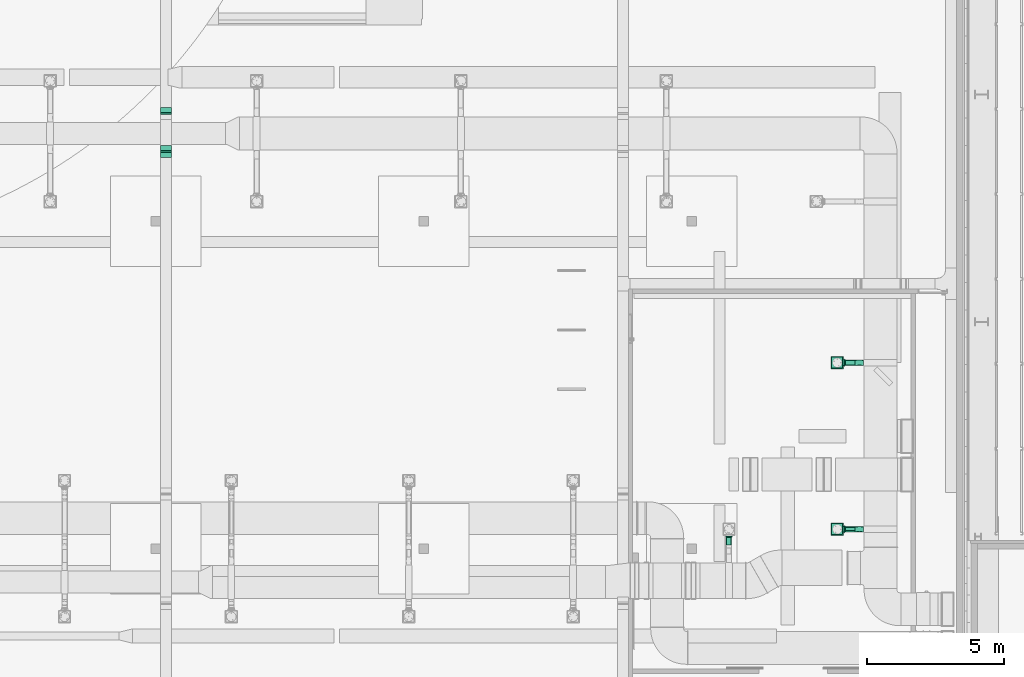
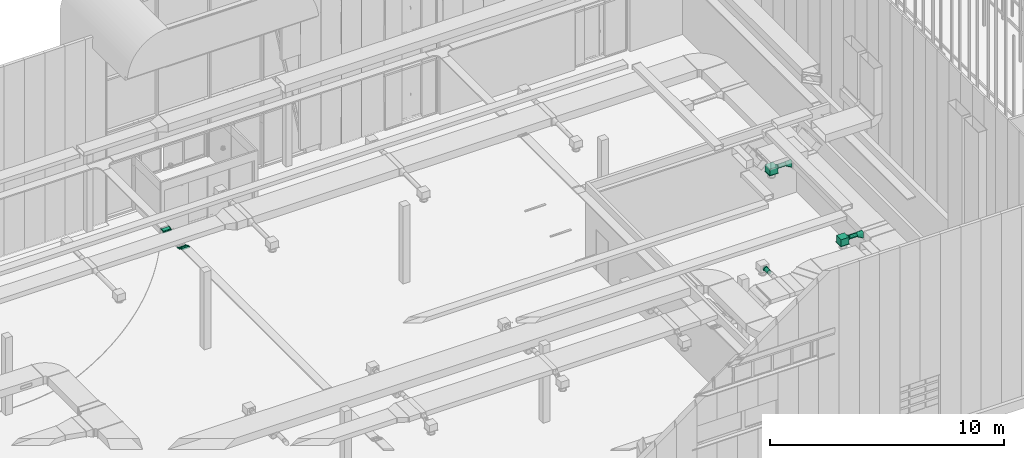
# One storey, part 281 of 302: 8 flow fittings, 5 flow segments, 2 flow terminals.
"""IFC2X3 building model written with IfcOpenShell, lengths in metres."""

from ifc_helpers import new_model, entity, si_unit, converted_unit, derived_unit, direction, frame, frame_2d, origin, origin_2d_with_axis, place, context, subcontext, project, spatial, rectangle, circle, extrude, faceted_brep, source, transform, mapped, material, material_list, type_object, type_shapes, element, save


model = new_model("IFC2X3")

# Units and contexts
model_context = context("Model", 3, precision=1e-05, world=origin(), true_north=direction((6.12303176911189e-17, 1.0)))
body_context = subcontext(model_context, "Body", "Model", "MODEL_VIEW")
ifc_project = project(units=[si_unit("LENGTHUNIT", "METRE"), si_unit("AREAUNIT", "SQUARE_METRE"), si_unit("VOLUMEUNIT", "CUBIC_METRE"), converted_unit("PLANEANGLEUNIT", "DEGREE", entity("IfcRatioMeasure", 0.0174532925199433), si_unit("PLANEANGLEUNIT", "RADIAN"), dimensions=[0, 0, 0, 0, 0, 0, 0]), si_unit("MASSUNIT", "GRAM", prefix="KILO"), derived_unit("MASSDENSITYUNIT", [(si_unit("MASSUNIT", "GRAM", prefix="KILO"), 1), (si_unit("LENGTHUNIT", "METRE"), -3)]), derived_unit("MOMENTOFINERTIAUNIT", [(si_unit("LENGTHUNIT", "METRE"), 4)]), si_unit("TIMEUNIT", "SECOND"), si_unit("FREQUENCYUNIT", "HERTZ"), si_unit("THERMODYNAMICTEMPERATUREUNIT", "DEGREE_CELSIUS"), derived_unit("THERMALTRANSMITTANCEUNIT", [(si_unit("MASSUNIT", "GRAM", prefix="KILO"), 1), (si_unit("THERMODYNAMICTEMPERATUREUNIT", "KELVIN"), -1), (si_unit("TIMEUNIT", "SECOND"), -3)]), derived_unit("VOLUMETRICFLOWRATEUNIT", [(si_unit("LENGTHUNIT", "METRE"), 3), (si_unit("TIMEUNIT", "SECOND"), -1)]), si_unit("ELECTRICCURRENTUNIT", "AMPERE"), si_unit("ELECTRICVOLTAGEUNIT", "VOLT"), si_unit("POWERUNIT", "WATT"), si_unit("FORCEUNIT", "NEWTON", prefix="KILO"), si_unit("ILLUMINANCEUNIT", "LUX"), si_unit("LUMINOUSFLUXUNIT", "LUMEN"), si_unit("LUMINOUSINTENSITYUNIT", "CANDELA"), derived_unit("USERDEFINED", [(si_unit("MASSUNIT", "GRAM", prefix="KILO"), -1), (si_unit("LENGTHUNIT", "METRE"), -2), (si_unit("TIMEUNIT", "SECOND"), 3), (si_unit("LUMINOUSFLUXUNIT", "LUMEN"), 1)]), derived_unit("LINEARVELOCITYUNIT", [(si_unit("LENGTHUNIT", "METRE"), 1), (si_unit("TIMEUNIT", "SECOND"), -1)]), si_unit("PRESSUREUNIT", "PASCAL"), derived_unit("USERDEFINED", [(si_unit("LENGTHUNIT", "METRE"), -2), (si_unit("MASSUNIT", "GRAM", prefix="KILO"), 1), (si_unit("TIMEUNIT", "SECOND"), -2)]), derived_unit("LINEARFORCEUNIT", [(si_unit("MASSUNIT", "GRAM", prefix="KILO"), 1), (si_unit("LENGTHUNIT", "METRE"), 1), (si_unit("TIMEUNIT", "SECOND"), -2), (si_unit("LENGTHUNIT", "METRE"), -1)]), derived_unit("PLANARFORCEUNIT", [(si_unit("MASSUNIT", "GRAM", prefix="KILO"), 1), (si_unit("LENGTHUNIT", "METRE"), 1), (si_unit("TIMEUNIT", "SECOND"), -2), (si_unit("LENGTHUNIT", "METRE"), -2)])], contexts=[model_context])

# Site, building, storey
site_placement = place(None, origin())
site = spatial("IfcSite", under=ifc_project, at=site_placement, Name="Default", CompositionType="ELEMENT")
building_placement = place(site_placement, origin())
building = spatial("IfcBuilding", under=site, at=building_placement, CompositionType="ELEMENT")
storey_placement = place(building_placement, frame((0.0, 0.0, -1.3)))
storey = spatial("IfcBuildingStorey", under=building, at=storey_placement, Name="00_EG", CompositionType="ELEMENT", Elevation=-1.3)

# Flow segments
cable_carrier_segment_type = type_object("IfcCableCarrierSegmentType", Name="Kabeltrasse mit Formteilen:Channel Cable Tray", PredefinedType="CABLETRAYSEGMENT")
flow_segment_1_placement = place(storey_placement, origin())
element("IfcFlowSegment", 1, at=flow_segment_1_placement, inside=storey, type_object=cable_carrier_segment_type, Name="Kabeltrasse mit Formteilen:Channel Cable Tray", ObjectType="Kabeltrasse mit Formteilen:Channel Cable Tray", context=body_context, shape_type="SweptSolid", body=[
    extrude(rectangle(XDim=0.0600000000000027, YDim=0.0578549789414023, at=frame_2d((-1.23165366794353e-16, -2.41126563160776e-16), x_axis=(0.0, 1.0))), frame((-236.972611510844, 39.3352572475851, 4.79000000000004), z_axis=(1.0, 0.0, 0.0), x_axis=(0.0, 0.891006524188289, 0.453990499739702)), (0.0, 0.0, 1.0), 0.399999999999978),
])
flow_segment_2_placement = place(storey_placement, origin())
element("IfcFlowSegment", 2, at=flow_segment_2_placement, inside=storey, type_object=cable_carrier_segment_type, Name="Kabeltrasse mit Formteilen:Channel Cable Tray", ObjectType="Kabeltrasse mit Formteilen:Channel Cable Tray", context=body_context, shape_type="SweptSolid", body=[
    extrude(rectangle(XDim=0.0600000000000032, YDim=0.0578549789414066, at=frame_2d((-1.80584713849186e-15, -1.22471477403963e-15), x_axis=(0.0, 1.0))), frame((-236.972611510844, 37.9444956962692, 4.79000000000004), z_axis=(1.0, 0.0, 0.0), x_axis=(0.0, -0.891006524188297, 0.453990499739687)), (0.0, 0.0, 1.0), 0.399999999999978),
])

# Flow fittings
ifc_material = material(Name="<Unnamed>")
cable_carrier_fitting_type_1 = type_object("IfcCableCarrierFittingType", Name="Kabeltrasse - Bogen außen vertikal:Standard", PredefinedType="NOTDEFINED", material=ifc_material)
shared_shape_1 = source(origin(), body_context, "Body", "Brep", [
    faceted_brep([(-0.103233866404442, -0.0300000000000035, 0.199999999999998), (-0.103233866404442, 0.0299999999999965, 0.199999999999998), (-0.103233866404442, 0.0299999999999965, -0.200000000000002), (-0.103233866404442, -0.0300000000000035, -0.200000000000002), (-0.103233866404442, -0.0300000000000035, -0.197460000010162), (-0.103233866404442, 0.0274600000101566, -0.197460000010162), (-0.103233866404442, 0.0274600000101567, 0.197460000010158), (-0.103233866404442, -0.0300000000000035, 0.197460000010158), (0.105601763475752, 0.0201369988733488, 0.199999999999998), (0.105601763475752, 0.0201369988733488, 0.197460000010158), (0.0795154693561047, 0.071334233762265, 0.197460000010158), (0.0795154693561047, 0.071334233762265, -0.197460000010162), (0.105601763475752, 0.0201369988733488, -0.197460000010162), (0.105601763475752, 0.0201369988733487, -0.200000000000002), (0.0783623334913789, 0.0735973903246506, -0.200000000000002), (0.0783623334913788, 0.0735973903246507, 0.199999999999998), (-0.0487892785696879, -0.0300000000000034, 0.199999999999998), (0.0570912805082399, -0.00458032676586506, 0.199999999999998), (0.036179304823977, 0.052104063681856, 0.199999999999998), (-0.0558907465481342, 0.0299999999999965, 0.199999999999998), (-0.0558907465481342, 0.0299999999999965, -0.200000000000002), (0.036179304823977, 0.052104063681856, -0.200000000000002), (0.0570912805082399, -0.00458032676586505, -0.200000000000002), (-0.0487892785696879, -0.0300000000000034, -0.200000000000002), (-0.0487892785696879, -0.0300000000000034, -0.197460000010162), (0.0570912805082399, -0.00458032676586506, -0.197460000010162), (0.0370645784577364, 0.0497044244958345, -0.197460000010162), (-0.0555901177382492, 0.0274600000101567, -0.197460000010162), (-0.0555901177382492, 0.0274600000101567, 0.197460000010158), (0.0370645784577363, 0.0497044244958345, 0.197460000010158), (0.0570912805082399, -0.00458032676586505, 0.197460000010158), (-0.0487892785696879, -0.0300000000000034, 0.197460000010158)], [[[0, 1, 2, 3, 4, 5, 6, 7]], [[8, 9, 10, 11, 12, 13, 14, 15]], [[1, 0, 16, 17, 8, 15, 18, 19]], [[2, 1, 19, 20]], [[3, 2, 20, 21, 14, 13, 22, 23]], [[4, 3, 23, 24]], [[5, 4, 24, 25, 12, 11, 26, 27]], [[6, 5, 27, 28]], [[7, 6, 28, 29, 10, 9, 30, 31]], [[0, 7, 31, 16]], [[20, 19, 18, 21]], [[24, 23, 22, 25]], [[28, 27, 26, 29]], [[16, 31, 30, 17]], [[21, 18, 15, 14]], [[25, 22, 13, 12]], [[29, 26, 11, 10]], [[17, 30, 9, 8]]]),
])
type_shapes(cable_carrier_fitting_type_1, [shared_shape_1])
flow_fitting_1_placement = place(storey_placement, frame((-236.772611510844, 37.8267390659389, 4.85000000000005), z_axis=(1.0, 0.0, 0.0), x_axis=(0.0, -0.891006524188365, 0.453990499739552)))
element("IfcFlowFitting", 3, at=flow_fitting_1_placement, inside=storey, type_object=cable_carrier_fitting_type_1, material=ifc_material, Name="Kabeltrasse - Bogen außen vertikal:Standard", ObjectType="Kabeltrasse - Bogen außen vertikal:Standard", context=body_context, shape_type="MappedRepresentation", body=[
    mapped(shared_shape_1, transform((0.0, 0.0, 0.0), scale=1.0)),
])
cable_carrier_fitting_type_2 = type_object("IfcCableCarrierFittingType", Name="Kabeltrasse - Bogen innen vertikal:Standard", PredefinedType="NOTDEFINED", material=ifc_material)
shared_shape_2 = source(origin(), body_context, "Body", "Brep", [
    faceted_brep([(-0.103233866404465, 0.0299999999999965, 0.199999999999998), (-0.103233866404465, 0.0299999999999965, 0.197460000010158), (-0.103233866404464, -0.0274600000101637, 0.197460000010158), (-0.103233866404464, -0.0274600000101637, -0.197460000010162), (-0.103233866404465, 0.0299999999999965, -0.197460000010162), (-0.103233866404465, 0.0299999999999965, -0.200000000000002), (-0.103233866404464, -0.0300000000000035, -0.200000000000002), (-0.103233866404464, -0.0300000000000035, 0.199999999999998), (0.0783623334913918, 0.0735973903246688, 0.199999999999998), (0.10560176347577, 0.0201369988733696, 0.199999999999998), (0.10560176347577, 0.0201369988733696, -0.200000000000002), (0.0783623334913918, 0.0735973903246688, -0.200000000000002), (0.0783623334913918, 0.0735973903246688, -0.197460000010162), (0.104448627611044, 0.0224001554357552, -0.197460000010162), (0.104448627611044, 0.0224001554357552, 0.197460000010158), (0.0783623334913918, 0.0735973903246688, 0.197460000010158), (-0.0558907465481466, 0.0299999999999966, 0.199999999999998), (-0.0558907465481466, 0.0299999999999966, 0.197460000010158), (0.036179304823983, 0.0521040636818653, 0.197460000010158), (0.0562060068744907, -0.00218068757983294, 0.197460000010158), (-0.0490899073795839, -0.0274600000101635, 0.197460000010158), (-0.0490899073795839, -0.0274600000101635, -0.197460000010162), (0.0562060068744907, -0.00218068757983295, -0.197460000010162), (0.036179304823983, 0.0521040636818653, -0.197460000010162), (-0.0558907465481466, 0.0299999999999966, -0.197460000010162), (-0.0558907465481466, 0.0299999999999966, -0.200000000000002), (0.036179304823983, 0.0521040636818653, -0.200000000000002), (0.0570912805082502, -0.00458032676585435, -0.200000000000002), (-0.0487892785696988, -0.0300000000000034, -0.200000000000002), (-0.0487892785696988, -0.0300000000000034, 0.199999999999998), (0.0570912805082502, -0.00458032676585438, 0.199999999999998), (0.036179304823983, 0.0521040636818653, 0.199999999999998)], [[[0, 1, 2, 3, 4, 5, 6, 7]], [[8, 9, 10, 11, 12, 13, 14, 15]], [[1, 0, 16, 17]], [[2, 1, 17, 18, 15, 14, 19, 20]], [[3, 2, 20, 21]], [[4, 3, 21, 22, 13, 12, 23, 24]], [[5, 4, 24, 25]], [[6, 5, 25, 26, 11, 10, 27, 28]], [[7, 6, 28, 29]], [[0, 7, 29, 30, 9, 8, 31, 16]], [[17, 16, 31, 18]], [[21, 20, 19, 22]], [[25, 24, 23, 26]], [[29, 28, 27, 30]], [[18, 31, 8, 15]], [[22, 19, 14, 13]], [[26, 23, 12, 11]], [[30, 27, 10, 9]]]),
])
type_shapes(cable_carrier_fitting_type_2, [shared_shape_2])
flow_fitting_2_placement = place(storey_placement, frame((-236.772611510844, 38.0622523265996, 4.73000000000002), z_axis=(1.0, 0.0, 0.0), x_axis=(0.0, 0.89100652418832, -0.453990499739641)))
element("IfcFlowFitting", 4, at=flow_fitting_2_placement, inside=storey, type_object=cable_carrier_fitting_type_2, material=ifc_material, Name="Kabeltrasse - Bogen innen vertikal:Standard", ObjectType="Kabeltrasse - Bogen innen vertikal:Standard", context=body_context, shape_type="MappedRepresentation", body=[
    mapped(shared_shape_2, transform((0.0, 0.0, 0.0), scale=1.0)),
])
cable_carrier_fitting_type_3 = type_object("IfcCableCarrierFittingType", Name="Kabeltrasse - Bogen außen vertikal:Standard", PredefinedType="NOTDEFINED", material=ifc_material)
shared_shape_3 = source(origin(), body_context, "Body", "Brep", [
    faceted_brep([(-0.103233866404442, 0.0300000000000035, 0.199999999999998), (-0.103233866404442, 0.0300000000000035, 0.197460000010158), (-0.103233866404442, -0.0274600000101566, 0.197460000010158), (-0.103233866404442, -0.0274600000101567, -0.197460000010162), (-0.103233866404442, 0.0300000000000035, -0.197460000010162), (-0.103233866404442, 0.0300000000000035, -0.200000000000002), (-0.103233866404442, -0.0299999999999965, -0.200000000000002), (-0.103233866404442, -0.0299999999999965, 0.199999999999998), (0.105601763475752, -0.0201369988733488, 0.199999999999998), (0.0783623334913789, -0.0735973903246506, 0.199999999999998), (0.0783623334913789, -0.0735973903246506, -0.200000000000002), (0.105601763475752, -0.0201369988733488, -0.200000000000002), (0.105601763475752, -0.0201369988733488, -0.197460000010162), (0.0795154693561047, -0.071334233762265, -0.197460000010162), (0.0795154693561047, -0.071334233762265, 0.197460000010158), (0.105601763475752, -0.0201369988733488, 0.197460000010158), (-0.0558907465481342, -0.0299999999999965, 0.199999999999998), (0.036179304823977, -0.052104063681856, 0.199999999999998), (0.0570912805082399, 0.00458032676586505, 0.199999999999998), (-0.0487892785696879, 0.0300000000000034, 0.199999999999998), (-0.0558907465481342, -0.0299999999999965, -0.200000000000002), (-0.0487892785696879, 0.0300000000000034, -0.200000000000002), (0.0570912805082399, 0.00458032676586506, -0.200000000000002), (0.036179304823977, -0.052104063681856, -0.200000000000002), (-0.0487892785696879, 0.0300000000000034, -0.197460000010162), (-0.0555901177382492, -0.0274600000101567, -0.197460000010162), (0.0370645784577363, -0.0497044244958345, -0.197460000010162), (0.0570912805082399, 0.00458032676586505, -0.197460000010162), (-0.0555901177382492, -0.0274600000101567, 0.197460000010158), (-0.0487892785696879, 0.0300000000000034, 0.197460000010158), (0.0570912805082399, 0.00458032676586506, 0.197460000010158), (0.0370645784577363, -0.0497044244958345, 0.197460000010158)], [[[0, 1, 2, 3, 4, 5, 6, 7]], [[8, 9, 10, 11, 12, 13, 14, 15]], [[7, 16, 17, 9, 8, 18, 19, 0]], [[6, 20, 16, 7]], [[5, 21, 22, 11, 10, 23, 20, 6]], [[4, 24, 21, 5]], [[3, 25, 26, 13, 12, 27, 24, 4]], [[2, 28, 25, 3]], [[1, 29, 30, 15, 14, 31, 28, 2]], [[0, 19, 29, 1]], [[20, 23, 17, 16]], [[24, 27, 22, 21]], [[28, 31, 26, 25]], [[19, 18, 30, 29]], [[23, 10, 9, 17]], [[27, 12, 11, 22]], [[31, 14, 13, 26]], [[18, 8, 15, 30]]]),
])
type_shapes(cable_carrier_fitting_type_3, [shared_shape_3])
flow_fitting_3_placement = place(storey_placement, frame((-236.772611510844, 39.4530138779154, 4.85000000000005), z_axis=(1.0, 0.0, 0.0), x_axis=(0.0, 0.891006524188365, 0.453990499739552)))
element("IfcFlowFitting", 5, at=flow_fitting_3_placement, inside=storey, type_object=cable_carrier_fitting_type_3, material=ifc_material, Name="Kabeltrasse - Bogen außen vertikal:Standard", ObjectType="Kabeltrasse - Bogen außen vertikal:Standard", context=body_context, shape_type="MappedRepresentation", body=[
    mapped(shared_shape_3, transform((0.0, 0.0, 0.0), scale=1.0)),
])

# Flow segments
duct_segment_type = type_object("IfcDuctSegmentType", Name="Rund:STR_Segment_RND_GS_EA", PredefinedType="NOTDEFINED")
flow_segment_3_placement = place(storey_placement, origin())
element("IfcFlowSegment", 6, at=flow_segment_3_placement, inside=storey, type_object=duct_segment_type, Name="Rund:STR_Segment_RND_GS_EA", ObjectType="Rund:STR_Segment_RND_GS_EA", context=body_context, shape_type="SweptSolid", body=[
    extrude(circle(Radius=0.1, at=origin_2d_with_axis()), frame((-211.963736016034, 30.2373330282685, 4.985), z_axis=(1.0, 0.0, 0.0), x_axis=(0.0, 1.0, 0.0)), (0.0, 0.0, 1.0), 0.359195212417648),
])
flow_segment_4_placement = place(storey_placement, origin())
element("IfcFlowSegment", 7, at=flow_segment_4_placement, inside=storey, type_object=duct_segment_type, Name="Rund:STR_Segment_RND_GS_EA", ObjectType="Rund:STR_Segment_RND_GS_EA", context=body_context, shape_type="SweptSolid", body=[
    extrude(circle(Radius=0.1, at=origin_2d_with_axis()), frame((-211.963736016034, 24.1552444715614, 4.985), z_axis=(1.0, 0.0, 0.0), x_axis=(0.0, 1.0, 0.0)), (0.0, 0.0, 1.0), 0.359195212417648),
])
flow_segment_5_placement = place(storey_placement, origin())
element("IfcFlowSegment", 8, at=flow_segment_5_placement, inside=storey, type_object=duct_segment_type, Name="Rund:STR_Segment_RND_GS_EA", ObjectType="Rund:STR_Segment_RND_GS_EA", context=body_context, shape_type="SweptSolid", body=[
    extrude(circle(Radius=0.1, at=origin_2d_with_axis()), frame((-216.214864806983, 23.5775453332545, 4.985), z_axis=(0.0, 1.0, 0.0), x_axis=(-1.0, 0.0, 0.0)), (0.0, 0.0, 1.0), 0.278863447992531),
])

# Flow fittings
duct_fitting_type_1 = type_object("IfcDuctFittingType", Name="STR_RND_Transition:STR_Transition_RND_GS_EA", PredefinedType="NOTDEFINED", material=ifc_material)
shared_shape_4 = source(origin(), body_context, "Body", "Brep", [
    faceted_brep([(0.0500000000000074, -0.073473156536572, -0.1011271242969), (0.0500000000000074, -0.0386271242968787, -0.118882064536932), (0.0500000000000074, 0.0, -0.12500000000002), (0.0500000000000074, 0.0386271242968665, -0.11888206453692), (0.0500000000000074, 0.073473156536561, -0.101127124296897), (0.0500000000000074, 0.101127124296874, -0.0734731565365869), (0.0500000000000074, 0.1188820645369, -0.038627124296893), (0.0500000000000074, 0.124999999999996, 0.0), (0.0500000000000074, 0.118882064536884, 0.0386271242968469), (0.0500000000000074, 0.101127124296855, 0.073473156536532), (0.0500000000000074, 0.0734731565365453, 0.101127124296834), (0.0500000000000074, 0.0386271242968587, 0.118882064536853), (0.0500000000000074, 0.0, 0.12499999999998), (0.0500000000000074, -0.0386271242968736, 0.118882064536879), (0.0500000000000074, -0.0734731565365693, 0.101127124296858), (0.0500000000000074, -0.101127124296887, 0.0734731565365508), (0.0500000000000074, -0.118882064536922, 0.0386271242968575), (0.0500000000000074, -0.125000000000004, 0.0), (0.0500000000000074, -0.118882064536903, -0.0386271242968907), (0.0500000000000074, -0.101127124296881, -0.0734731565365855), (0.0, 0.0309016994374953, -0.0951056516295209), (0.0, 0.0, -0.100000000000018), (0.0, -0.0309016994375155, -0.0951056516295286), (0.0, -0.0587785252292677, -0.0809016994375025), (0.0, -0.0809016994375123, -0.0587785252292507), (0.0, -0.0951056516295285, -0.0309016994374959), (0.0, -0.100000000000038, 0.0), (0.0, -0.0951056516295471, 0.0309016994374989), (0.0, -0.0809016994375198, 0.0587785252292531), (0.0, -0.058778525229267, 0.0809016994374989), (0.0, -0.0309016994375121, 0.0951056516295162), (0.0, 0.0, 0.0999999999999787), (0.0, 0.0309016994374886, 0.0951056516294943), (0.0, 0.0587785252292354, 0.0809016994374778), (0.0, 0.0809016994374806, 0.0587785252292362), (0.0, 0.0951056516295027, 0.0309016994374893), (0.0, 0.0999999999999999, 0.0), (0.0, 0.0951056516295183, -0.0309016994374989), (0.0, 0.0809016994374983, -0.0587785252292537), (0.0, 0.0587785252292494, -0.0809016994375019)], [[[0, 1, 2, 3, 4, 5, 6, 7, 8, 9, 10, 11, 12, 13, 14, 15, 16, 17, 18, 19]], [[20, 21, 22, 23, 24, 25, 26, 27, 28, 29, 30, 31, 32, 33, 34, 35, 36, 37, 38, 39]], [[35, 34, 9, 8]], [[36, 35, 8, 7]], [[34, 33, 10, 9]], [[10, 33, 32, 11]], [[11, 32, 31, 12]], [[30, 29, 14, 13]], [[31, 30, 13, 12]], [[29, 28, 15, 14]], [[15, 28, 27, 16]], [[16, 27, 26, 17]], [[25, 24, 19, 18]], [[26, 25, 18, 17]], [[24, 23, 0, 19]], [[0, 23, 22, 1]], [[1, 22, 21, 2]], [[20, 39, 4, 3]], [[21, 20, 3, 2]], [[39, 38, 5, 4]], [[5, 38, 37, 6]], [[6, 37, 36, 7]]]),
])
type_shapes(duct_fitting_type_1, [shared_shape_4])
for number, where, z_axis, x_axis in (
    (9, (-211.963736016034, 30.2373330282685, 4.98500000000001), (0.0, 0.0, 1.0), (-1.0, 0.0, 0.0)),
    (10, (-216.214864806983, 23.856408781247, 4.985), (0.0, 0.0, 1.0), (0.0, 1.0, 0.0)),
    (11, (-211.963736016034, 24.1552444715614, 4.98500000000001), (0.0, 0.0, 1.0), (-1.0, 0.0, 0.0)),
):
    element("IfcFlowFitting", number, at=place(storey_placement, frame(where, z_axis=z_axis, x_axis=x_axis)), inside=storey, type_object=duct_fitting_type_1, material=ifc_material, Name="STR_RND_Transition:STR_Transition_RND_GS_EA", ObjectType="STR_RND_Transition:STR_Transition_RND_GS_EA", context=body_context, shape_type="MappedRepresentation", body=[
        mapped(shared_shape_4, transform((0.0, 0.0, 0.0), scale=1.0)),
    ])

# Flow terminals
ifc_material_list = material_list([ifc_material, ifc_material, ifc_material])
air_terminal_type = type_object("IfcAirTerminalType", Name="Drallauslass Zuluft seitlich:600 quadratisch", PredefinedType="NOTDEFINED", material=ifc_material_list)
shared_shape_5 = source(origin(), body_context, "Body", "SweptSolid", [
    extrude(rectangle(XDim=0.450000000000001, YDim=0.449999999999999, at=origin_2d_with_axis()), frame((0.0, 0.0, 2.692), z_axis=(0.0, 0.0, 1.0), x_axis=(0.0, 1.0, 0.0)), (0.0, 0.0, 1.0), 0.00800000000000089),
    extrude(circle(Radius=0.125, at=frame_2d((1.22275294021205e-18, -5.41433564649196e-16), x_axis=(1.0, 0.0))), frame((-0.25, 0.0, 2.89500000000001), z_axis=(1.0, 0.0, 0.0), x_axis=(0.0, -1.0, 0.0)), (0.0, 0.0, 1.0), 0.0499999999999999),
    extrude(rectangle(XDim=0.4, YDim=0.399999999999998, at=origin_2d_with_axis()), frame((0.0, 0.0, 2.7), z_axis=(0.0, 0.0, 1.0), x_axis=(0.0, 1.0, 0.0)), (0.0, 0.0, 1.0), 0.345000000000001),
])
type_shapes(air_terminal_type, [shared_shape_5])
for number, where, z_axis, x_axis, name in (
    (12, (-212.263736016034, 30.2373330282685, 2.09), (0.0, 0.0, 1.0), (-1.0, 0.0, 0.0), "Drallauslass Zuluft seitlich:600 quadratisch"),
    (13, (-212.263736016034, 24.1552444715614, 2.09), (0.0, 0.0, 1.0), (-1.0, 0.0, 0.0), "Drallauslass Zuluft seitlich:600 quadratisch"),
):
    element("IfcFlowTerminal", number, at=place(storey_placement, frame(where, z_axis=z_axis, x_axis=x_axis)), inside=storey, type_object=air_terminal_type, material=ifc_material, Name=name, ObjectType="Drallauslass Zuluft seitlich:600 quadratisch", context=body_context, shape_type="MappedRepresentation", body=[
        mapped(shared_shape_5, transform((0.0, 0.0, 0.0), scale=1.0)),
    ])

# Flow fittings
duct_fitting_type_2 = type_object("IfcDuctFittingType", Name="STR_OVL_Transition:STR_Transition_OVL_GS_EA", PredefinedType="NOTDEFINED", material=ifc_material)
shared_shape_6 = source(origin(), body_context, "Body", "Brep", [
    faceted_brep([(0.300000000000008, 0.0999999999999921, 0.0765874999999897), (0.300000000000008, 0.0966466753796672, 0.102058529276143), (0.300000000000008, 0.0868152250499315, 0.125793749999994), (0.300000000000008, 0.0711756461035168, 0.146175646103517), (0.300000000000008, 0.0507937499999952, 0.161815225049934), (0.300000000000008, 0.0270585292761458, 0.171646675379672), (0.300000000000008, 0.00158749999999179, 0.175), (0.300000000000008, -0.00158750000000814, 0.175), (0.300000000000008, -0.0270585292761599, 0.171646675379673), (0.300000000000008, -0.0507937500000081, 0.161815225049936), (0.300000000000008, -0.0711756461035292, 0.146175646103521), (0.300000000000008, -0.0868152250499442, 0.12579375), (0.300000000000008, -0.0966466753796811, 0.102058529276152), (0.300000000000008, -0.100000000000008, 0.0765874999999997), (0.300000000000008, -0.100000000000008, 0.0734124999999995), (0.300000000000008, -0.0966466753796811, 0.0479414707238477), (0.300000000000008, -0.0868152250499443, 0.0242062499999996), (0.300000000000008, -0.0711756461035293, 0.00382435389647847), (0.300000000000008, -0.0507937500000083, -0.0118152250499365), (0.300000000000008, -0.0270585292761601, -0.0216466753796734), (0.300000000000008, -0.00158750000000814, -0.0250000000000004), (0.300000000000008, 0.0015874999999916, -0.0250000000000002), (0.300000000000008, 0.0270585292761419, -0.0216466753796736), (0.300000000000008, 0.0507937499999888, -0.011815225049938), (0.300000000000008, 0.0711756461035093, 0.00382435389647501), (0.300000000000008, 0.0868152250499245, 0.0242062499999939), (0.300000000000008, 0.0966466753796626, 0.0479414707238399), (0.300000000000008, 0.0999999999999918, 0.0734124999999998), (0.0, 0.0507937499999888, -0.186815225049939), (0.0, 0.0270585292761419, -0.196646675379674), (0.0, 0.00158749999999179, -0.200000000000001), (0.0, -0.00158750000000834, -0.200000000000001), (0.0, -0.0270585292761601, -0.196646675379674), (0.0, -0.0507937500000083, -0.186815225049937), (0.0, -0.0711756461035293, -0.171175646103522), (0.0, -0.0868152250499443, -0.150793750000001), (0.0, -0.0966466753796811, -0.127058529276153), (0.0, -0.100000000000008, -0.101587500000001), (0.0, -0.100000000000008, 0.101587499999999), (0.0, -0.0966466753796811, 0.127058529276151), (0.0, -0.0868152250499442, 0.150793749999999), (0.0, -0.0711756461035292, 0.17117564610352), (0.0, -0.0507937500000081, 0.186815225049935), (0.0, -0.0270585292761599, 0.196646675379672), (0.0, -0.00158750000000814, 0.199999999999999), (0.0, 0.00158749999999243, 0.199999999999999), (0.0, 0.0270585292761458, 0.196646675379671), (0.0, 0.0507937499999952, 0.186815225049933), (0.0, 0.0711756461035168, 0.171175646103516), (0.0, 0.0868152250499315, 0.150793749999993), (0.0, 0.0966466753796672, 0.127058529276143), (0.0, 0.100000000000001, 0.101587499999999), (0.0, 0.0999999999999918, -0.101587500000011), (0.0, 0.0966466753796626, -0.127058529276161), (0.0, 0.0868152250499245, -0.150793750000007), (0.0, 0.0711756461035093, -0.171175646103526), (0.154247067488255, -0.0203412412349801, 0.185342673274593), (0.145752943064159, -0.0981965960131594, 0.10819516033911), (0.107489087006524, -0.00158750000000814, 0.191042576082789), (0.149999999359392, -0.0614972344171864, 0.167163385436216), (0.15000000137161, -0.0392483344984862, 0.180008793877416), (0.150000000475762, -0.0796633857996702, 0.148997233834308), (0.192510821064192, -0.100000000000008, 0.0855449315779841), (0.149999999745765, -0.0925087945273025, 0.126748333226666), (0.0998539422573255, -0.100000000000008, -0.0433393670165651), (0.15000000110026, -0.0925087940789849, -0.0517483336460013), (0.150000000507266, -0.061497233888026, -0.0921633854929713), (0.149999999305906, -0.0796633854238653, -0.073997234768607), (0.153474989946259, -0.0982242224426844, -0.0306712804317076), (0.153474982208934, -0.0201983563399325, -0.108697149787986), (0.0998539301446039, -0.00158750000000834, -0.141751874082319), (0.149999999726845, -0.0392483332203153, -0.105008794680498), (0.0998539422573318, 0.0015874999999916, -0.141751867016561), (0.15000000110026, 0.0392483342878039, -0.105008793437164), (0.150000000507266, 0.0796633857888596, -0.0739972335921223), (0.149999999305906, 0.0614972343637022, -0.0921633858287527), (0.153474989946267, 0.020198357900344, -0.108697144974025), (0.153474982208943, 0.0982242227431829, -0.030671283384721), (0.0998539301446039, 0.0999999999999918, -0.0433393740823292), (0.149999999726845, 0.0925087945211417, -0.0517483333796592), (0.107489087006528, 0.0999999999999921, 0.0926300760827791), (0.154247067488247, 0.0981965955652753, 0.107487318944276), (0.145752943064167, 0.0203412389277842, 0.18605051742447), (0.149999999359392, 0.079663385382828, 0.148997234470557), (0.15000000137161, 0.0925087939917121, 0.12674833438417), (0.150000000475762, 0.0614972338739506, 0.167163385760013), (0.192510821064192, 0.00158749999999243, 0.183957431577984), (0.149999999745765, 0.0392483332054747, 0.18000879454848)], [[[0, 1, 2, 3, 4, 5, 6, 7, 8, 9, 10, 11, 12, 13, 14, 15, 16, 17, 18, 19, 20, 21, 22, 23, 24, 25, 26, 27]], [[28, 29, 30, 31, 32, 33, 34, 35, 36, 37, 38, 39, 40, 41, 42, 43, 44, 45, 46, 47, 48, 49, 50, 51, 52, 53, 54, 55]], [[56, 44, 43]], [[38, 57, 39]], [[56, 7, 58, 44]], [[42, 41, 59]], [[43, 60, 56]], [[59, 60, 42]], [[61, 59, 41]], [[43, 42, 60]], [[8, 56, 60]], [[10, 9, 59]], [[9, 60, 59]], [[57, 38, 62, 13]], [[40, 39, 63]], [[63, 61, 40]], [[12, 57, 13]], [[12, 63, 57]], [[9, 8, 60]], [[10, 61, 11]], [[12, 11, 63]], [[63, 11, 61]], [[39, 57, 63]], [[61, 10, 59]], [[61, 41, 40]], [[7, 56, 8]], [[14, 13, 62, 38, 37, 64]], [[36, 35, 65]], [[66, 67, 34]], [[36, 68, 64]], [[35, 34, 67]], [[36, 64, 37]], [[20, 69, 70]], [[67, 65, 35]], [[31, 70, 32]], [[68, 65, 15]], [[16, 15, 65]], [[16, 65, 67]], [[32, 69, 71]], [[33, 32, 71]], [[71, 66, 33]], [[19, 69, 20]], [[69, 19, 71]], [[36, 65, 68]], [[17, 66, 18]], [[19, 18, 71]], [[71, 18, 66]], [[70, 69, 32]], [[14, 64, 68]], [[66, 17, 67]], [[66, 34, 33]], [[14, 68, 15]], [[17, 16, 67]], [[30, 72, 21, 20, 70, 31]], [[29, 28, 73]], [[74, 75, 55]], [[29, 76, 72]], [[28, 55, 75]], [[29, 72, 30]], [[27, 77, 78]], [[75, 73, 28]], [[52, 78, 53]], [[76, 73, 22]], [[23, 22, 73]], [[23, 73, 75]], [[53, 77, 79]], [[54, 53, 79]], [[79, 74, 54]], [[26, 77, 27]], [[77, 26, 79]], [[29, 73, 76]], [[24, 74, 25]], [[26, 25, 79]], [[79, 25, 74]], [[78, 77, 53]], [[21, 72, 76]], [[74, 24, 75]], [[74, 55, 54]], [[21, 76, 22]], [[24, 23, 75]], [[51, 80, 0, 27, 78, 52]], [[81, 51, 50]], [[45, 82, 46]], [[81, 0, 80, 51]], [[49, 48, 83]], [[50, 84, 81]], [[83, 84, 49]], [[85, 83, 48]], [[50, 49, 84]], [[1, 81, 84]], [[3, 2, 83]], [[2, 84, 83]], [[82, 45, 86, 6]], [[47, 46, 87]], [[87, 85, 47]], [[5, 82, 6]], [[5, 87, 82]], [[2, 1, 84]], [[3, 85, 4]], [[5, 4, 87]], [[87, 4, 85]], [[46, 82, 87]], [[85, 3, 83]], [[85, 48, 47]], [[0, 81, 1]], [[44, 58, 7, 6, 86, 45]]]),
])
type_shapes(duct_fitting_type_2, [shared_shape_6])
for number, where, z_axis, x_axis in (
    (14, (-211.304540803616, 30.2373330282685, 4.91), (0.0, 0.0, 1.0), (-1.0, 0.0, 0.0)),
    (15, (-211.304540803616, 24.1552444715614, 4.91), (0.0, 0.0, 1.0), (-1.0, 0.0, 0.0)),
):
    element("IfcFlowFitting", number, at=place(storey_placement, frame(where, z_axis=z_axis, x_axis=x_axis)), inside=storey, type_object=duct_fitting_type_2, material=ifc_material, Name="STR_OVL_Transition:STR_Transition_OVL_GS_EA", ObjectType="STR_OVL_Transition:STR_Transition_OVL_GS_EA", context=body_context, shape_type="MappedRepresentation", body=[
        mapped(shared_shape_6, transform((0.0, 0.0, 0.0), scale=1.0)),
    ])

save(model, "model.ifc")
